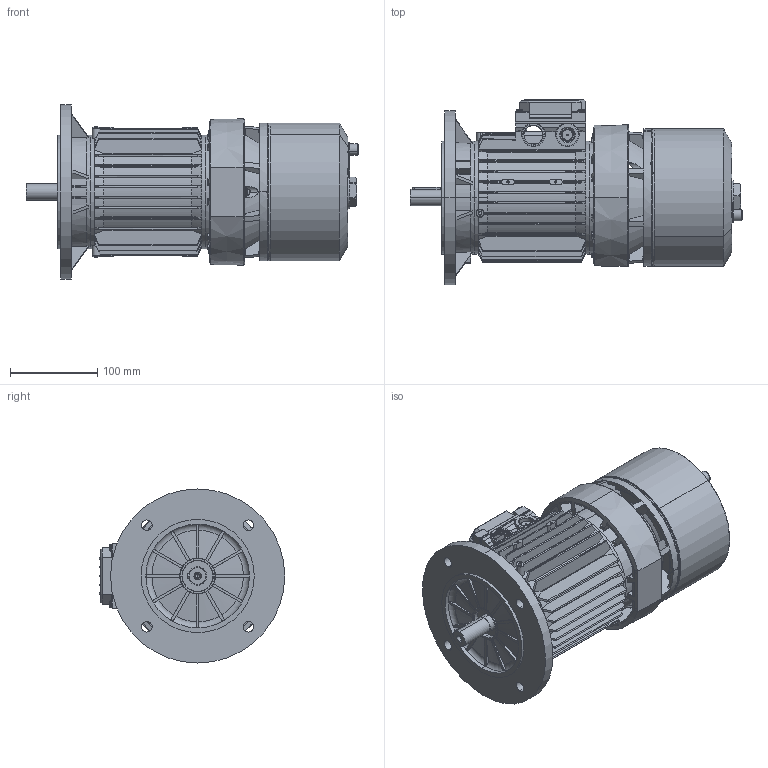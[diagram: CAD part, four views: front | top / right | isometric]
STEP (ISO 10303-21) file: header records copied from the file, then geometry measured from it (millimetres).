
FILE_DESCRIPTION (( 'STEP AP214' ), '1' );
FILE_NAME ('M02DB0013.STEP', '2019-01-29T17:17:29', ( '' ), ( '' ), 'SwSTEP 2.0', 'SolidWorks 2018', '' );
FILE_SCHEMA (( 'AUTOMOTIVE_DESIGN' ));
Length unit declared in the file: millimetre
Products named in the file (14): Scudo Lato Freno BA80 P1; Carcassa 80 B5; M02DB0013; Coperchio per Scatola Singola 63-71-80 con viti; Guarnizione Scatola Singola 63-71-80; Vite per coperchio morsettiera; Coperchio per Scatola Singola 63-71-80 - DBAN0095; O-ring freno BA80; Vite a Testa Esagona con foro e tappo 71-112 - Modificata; Scudo a flangia B5 Fi 200 BA-BM 80; Chiavetta 80; Albero BA 80; Cuffia serie BA 80; Convogliatore con pista d''attrito P2 BA80
Assembly tree (16 placements, depth 3):
  M02DB0013
    Carcassa 80 B5
    Scudo Lato Freno BA80 P1
    Convogliatore con pista d''attrito P2 BA80
    Cuffia serie BA 80
    Albero BA 80
    Chiavetta 80
    Scudo a flangia B5 Fi 200 BA-BM 80
    Vite a Testa Esagona con foro e tappo 71-112 - Modificata
    O-ring freno BA80
    Coperchio per Scatola Singola 63-71-80 con viti
      Coperchio per Scatola Singola 63-71-80 - DBAN0095
      Vite per coperchio morsettiera  x4
      Guarnizione Scatola Singola 63-71-80
Bounding box: 381.38 x 213 x 200 mm (x, y, z)
Volume: 1295398.8 mm3; surface area: 738640.8 mm2
Topology: 15 solids, 15 shells, 2671 faces, 7402 edges, 4760 vertices
Faces by surface type: plane 960, cylinder 776, cone 357, torus 338, bspline 240
Entity records: 100137 total; most frequent: CARTESIAN_POINT 38080, ORIENTED_EDGE 13930, DIRECTION 11352, EDGE_CURVE 6965, VERTEX_POINT 4526, AXIS2_PLACEMENT_3D 4307, LINE 2738, VECTOR 2738
